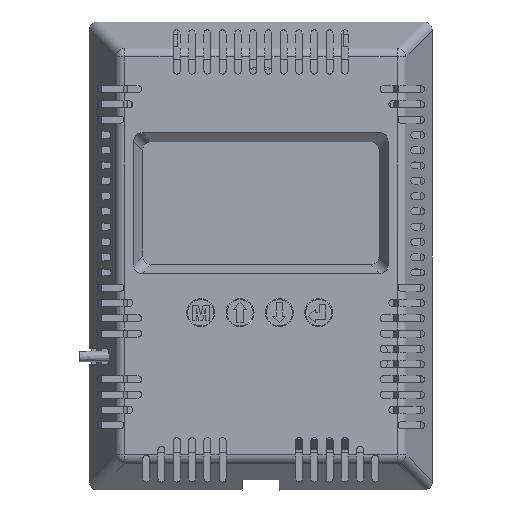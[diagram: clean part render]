
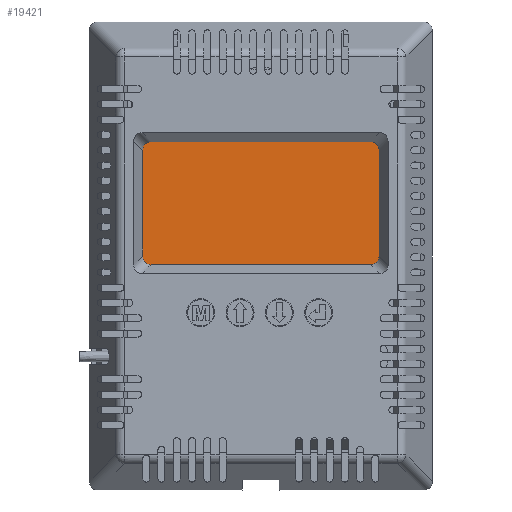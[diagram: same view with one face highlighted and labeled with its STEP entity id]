
A CAD part, top view. The second image highlights one B-rep face of the part: STEP entity #19421.
In plain terms, the highlighted planar face has unit normal (0, 0, 1).
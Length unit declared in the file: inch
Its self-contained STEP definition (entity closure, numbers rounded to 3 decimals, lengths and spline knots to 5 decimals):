
#2138=FACE_OUTER_BOUND('',#3208,.T.);
#3208=EDGE_LOOP('',(#15062,#15063,#15064,#15065));
#4664=LINE('',#30141,#6681);
#4667=LINE('',#30147,#6684);
#4670=LINE('',#30153,#6687);
#4673=LINE('',#30157,#6690);
#6681=VECTOR('',#24277,0.3937);
#6684=VECTOR('',#24282,0.3937);
#6687=VECTOR('',#24287,0.3937);
#6690=VECTOR('',#24292,0.3937);
#8590=VERTEX_POINT('',#30138);
#8591=VERTEX_POINT('',#30140);
#8593=VERTEX_POINT('',#30146);
#8595=VERTEX_POINT('',#30152);
#10940=EDGE_CURVE('',#8591,#8590,#4664,.T.);
#10943=EDGE_CURVE('',#8593,#8591,#4667,.T.);
#10946=EDGE_CURVE('',#8595,#8593,#4670,.T.);
#10949=EDGE_CURVE('',#8590,#8595,#4673,.T.);
#15062=ORIENTED_EDGE('',*,*,#10949,.T.);
#15063=ORIENTED_EDGE('',*,*,#10946,.T.);
#15064=ORIENTED_EDGE('',*,*,#10943,.T.);
#15065=ORIENTED_EDGE('',*,*,#10940,.T.);
#18721=PLANE('',#20730);
#19421=ADVANCED_FACE('',(#2138),#18721,.T.);
#20730=AXIS2_PLACEMENT_3D('',#30158,#24293,#24294);
#24277=DIRECTION('',(-1.,0.,0.));
#24282=DIRECTION('',(0.,1.,0.));
#24287=DIRECTION('',(1.,0.,0.));
#24292=DIRECTION('',(0.,-1.,0.));
#24293=DIRECTION('center_axis',(0.,0.,1.));
#24294=DIRECTION('ref_axis',(1.,0.,0.));
#30138=CARTESIAN_POINT('',(1.49113,5.354,0.4712));
#30140=CARTESIAN_POINT('',(4.43613,5.354,0.4712));
#30141=CARTESIAN_POINT('',(4.43613,5.354,0.4712));
#30146=CARTESIAN_POINT('',(4.43613,3.664,0.4712));
#30147=CARTESIAN_POINT('',(4.43613,3.664,0.4712));
#30152=CARTESIAN_POINT('',(1.49113,3.664,0.4712));
#30153=CARTESIAN_POINT('',(1.49113,3.664,0.4712));
#30157=CARTESIAN_POINT('',(1.49113,5.354,0.4712));
#30158=CARTESIAN_POINT('Origin',(2.96363,3.664,0.4712));
